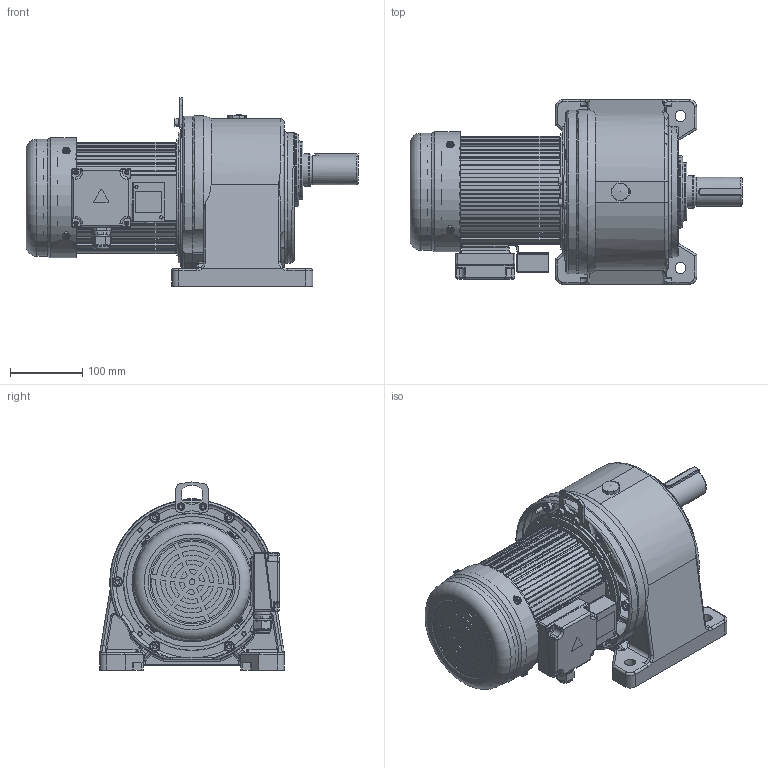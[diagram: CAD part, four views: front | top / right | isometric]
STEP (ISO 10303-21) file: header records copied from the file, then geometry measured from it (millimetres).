
FILE_DESCRIPTION(/* description */ (''),/* implementation_level */ '2;1');
FILE_NAME(/* name */ 'CH40-750-3～200外形多速比带刹车.stp',/* time_stamp */ '2025-05-02T10:31:25+08:00',/* author */ (''),/* organization */ (''),/* preprocessor_version */ 'ST-DEVELOPER v18.102',/* originating_system */ 'SIEMENS PLM Software NX 2027',/* authorisation */ '');
FILE_SCHEMA (('AP203_CONFIGURATION_CONTROLLED_3D_DESIGN_OF_MECHANICAL_PARTS_AND_ASSEMBLIES_MIM_LF { 1 0 10303 403 2 1 2}'));
Length unit declared in the file: millimetre
Products named in the file (1): CH40-750-3～200外形多速比带刹车_
objects
Bounding box: 458.5 x 255 x 259.8 mm (x, y, z)
Volume: 9551086.1 mm3; surface area: 743695.9 mm2
Topology: 22 solids, 22 shells, 4973 faces, 12947 edges, 8225 vertices
Faces by surface type: plane 2677, cylinder 1394, cone 472, torus 215, extrusion 96, bspline 82, revolution 20, sphere 17
Full cylindrical faces by diameter (mm): 1 x1, 1.8 x1, 3 x1, 3.3 x4, 3.5 x1, 4 x1, 4.2 x8, 4.336 x4, 4.5 x2, 4.51 x4, 4.826 x4, 5 x20, 5.795 x2, 6.4 x8, 7 x2, 7.76 x6, 8 x1, 10 x6, 11 x4, 12.5 x1, 13 x7, 14 x6, 15 x4, 15.76 x1, 16 x3, 16.6 x1, 16.678 x1, 17 x2, 19 x1, 19.5 x1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
Entity records: 162351 total; most frequent: CARTESIAN_POINT 43301, ORIENTED_EDGE 25138, DIRECTION 23915, EDGE_CURVE 12569, AXIS2_PLACEMENT_3D 8500, VERTEX_POINT 8134, VECTOR 6895, LINE 6799
